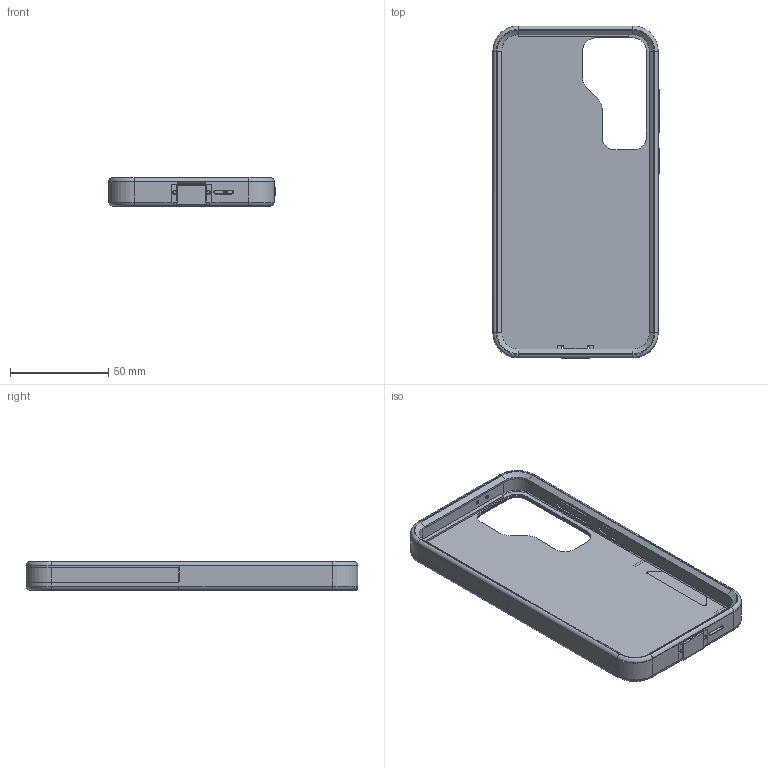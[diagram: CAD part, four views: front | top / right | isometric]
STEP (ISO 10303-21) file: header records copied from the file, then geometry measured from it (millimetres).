
FILE_DESCRIPTION(/* description */ (''),/* implementation_level */ '2;1');
FILE_NAME(/* name */ '3e3a9f9d-61c2-4f1f-b403-87bf932fb014.stp',/* time_stamp */ '2025-11-20T08:09:59Z',/* author */ (''),/* organization */ (''),/* preprocessor_version */ 'ST-DEVELOPER v20.1',/* originating_system */ 'Autodesk Translation Framework v14.21.0.0',/* authorisation */ '');
FILE_SCHEMA (('AUTOMOTIVE_DESIGN { 1 0 10303 214 3 1 1 }'));
Length unit declared in the file: millimetre
Products named in the file (1): case
Bounding box: 84.6 x 168.8 x 14.49 mm (x, y, z)
Volume: 51268.9 mm3; surface area: 69334 mm2
Topology: 5 solids, 5 shells, 803 faces, 2058 edges, 1320 vertices
Faces by surface type: plane 481, cylinder 230, cone 34, bspline 34, torus 24
Full cylindrical faces by diameter (mm): 1.4 x2, 1.6 x4
Entity records: 28514 total; most frequent: CARTESIAN_POINT 8741, ORIENTED_EDGE 4116, DIRECTION 4042, EDGE_CURVE 2058, LINE 1432, VECTOR 1432, VERTEX_POINT 1320, AXIS2_PLACEMENT_3D 1305
